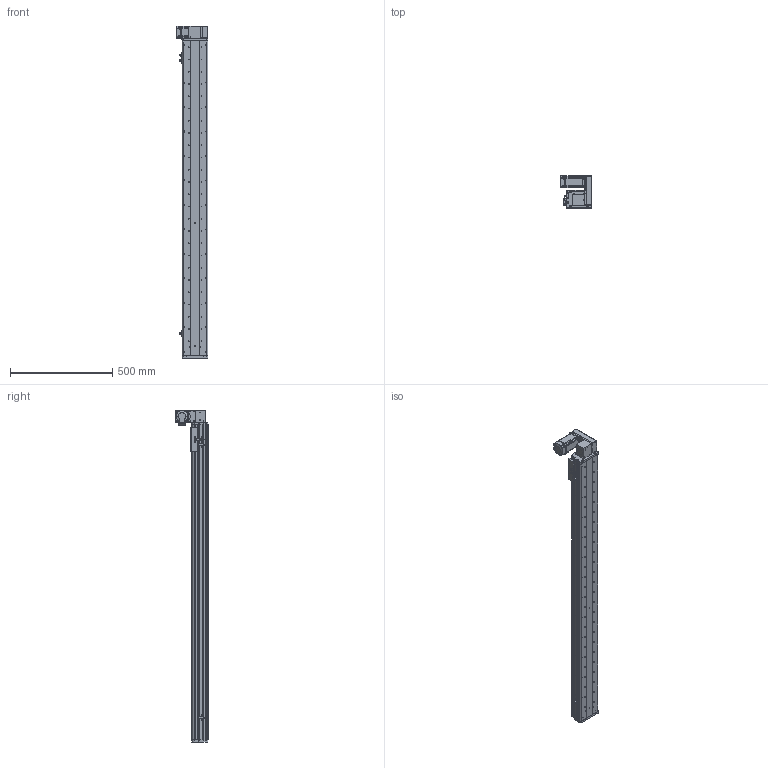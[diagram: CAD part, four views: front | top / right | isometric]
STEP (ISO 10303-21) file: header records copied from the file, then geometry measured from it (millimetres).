
FILE_DESCRIPTION (( 'STEP AP214' ), '1' );
FILE_NAME ('KSD125B-S1350-MLU-CM.STEP', '2017-10-21T03:37:00', ( '微软用户' ), ( '微软中国' ), 'SwSTEP 2.0', 'SolidWorks 2014', '' );
FILE_SCHEMA (( 'AUTOMOTIVE_DESIGN' ));
Length unit declared in the file: millimetre
Products named in the file (17): 125模组同步带-尾端板1; KSD125模组同步带-滑动座1; KSD125B-S1350-MLU-CM; 悵誘欶奻狟殏; 100宽马达安装板连板上下折丝杆同步带; HTPA30S3M150_A_H6_a佪裝蚚; HTPA30S3M150_A_H6_a萇儂蚚; 100宽马达安装板同步带左; KSD125模组1350行程同步带-防尘盖; 125模组1350行程同步带-底板; MHMD042G1CA_2_03; KSD125模组同步带-防撞垫2; 覜茼え68遵圉猾敕; U倰嫖萇假蚾璃; U倰嫖萇EEㄜSX672; KSD125模组同步带-防撞垫1; 前端板-125宽模组同步带
Assembly tree (20 placements, depth 2):
  KSD125B-S1350-MLU-CM
    KSD125模组同步带-滑动座1
    125模组同步带-尾端板1
    前端板-125宽模组同步带
    KSD125模组同步带-防撞垫1
    U倰嫖萇EEㄜSX672  x3
    U倰嫖萇假蚾璃  x3
    覜茼え68遵圉猾敕
    KSD125模组同步带-防撞垫2
    MHMD042G1CA_2_03
    125模组1350行程同步带-底板
    KSD125模组1350行程同步带-防尘盖
    100宽马达安装板同步带左
    HTPA30S3M150_A_H6_a萇儂蚚
    HTPA30S3M150_A_H6_a佪裝蚚
    100宽马达安装板连板上下折丝杆同步带
    悵誘欶奻狟殏
Bounding box: 155 x 157.5 x 1627 mm (x, y, z)
Volume: 4859945.7 mm3; surface area: 1614947.4 mm2
Topology: 19 solids, 22 shells, 2365 faces, 6859 edges, 4534 vertices
Faces by surface type: cylinder 1504, plane 734, cone 105, bspline 22
Entity records: 84593 total; most frequent: CARTESIAN_POINT 16653, DIRECTION 13140, ORIENTED_EDGE 12238, EDGE_CURVE 6197, AXIS2_PLACEMENT_3D 5097, VERTEX_POINT 4126, CIRCLE 2950, VECTOR 2946
